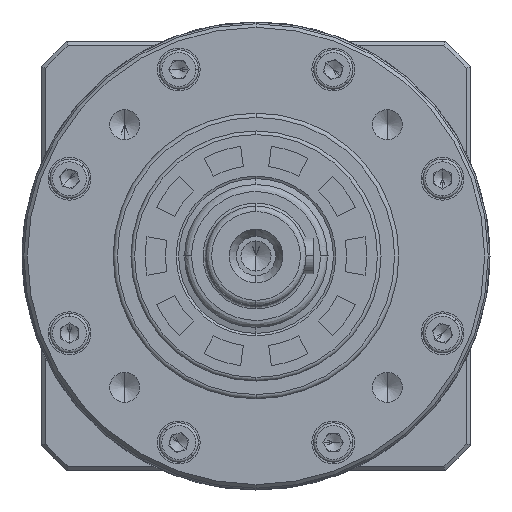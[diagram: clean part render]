
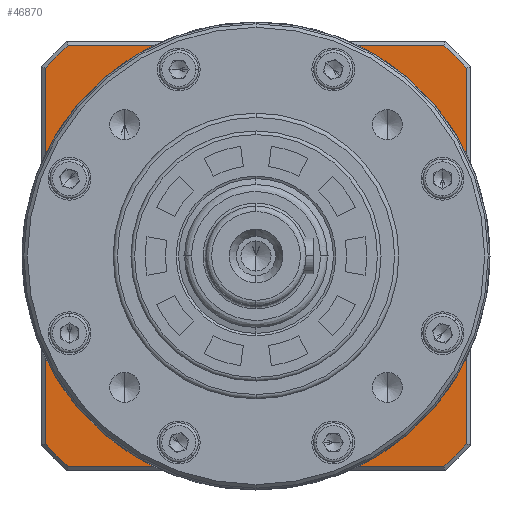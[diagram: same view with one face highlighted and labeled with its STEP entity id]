
A CAD part, left-side view. The second image highlights one B-rep face of the part: STEP entity #46870.
In plain terms, the highlighted planar face has unit normal (-1, 0, 0).
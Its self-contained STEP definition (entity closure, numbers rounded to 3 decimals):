
#1823 = VECTOR ( 'NONE', #60156, 1000. ) ;
#1941 = DIRECTION ( 'NONE',  ( 0., 1., 0. ) ) ;
#2256 = VERTEX_POINT ( 'NONE', #19501 ) ;
#2796 = EDGE_LOOP ( 'NONE', ( #4984, #60461 ) ) ;
#3154 = CARTESIAN_POINT ( 'NONE',  ( 5.8, 29.5, -26.268 ) ) ;
#4024 = DIRECTION ( 'NONE',  ( -1., 0., 0. ) ) ;
#4298 = CARTESIAN_POINT ( 'NONE',  ( 5.8, 0., 29. ) ) ;
#4424 = VECTOR ( 'NONE', #19091, 1000. ) ;
#4984 = ORIENTED_EDGE ( 'NONE', *, *, #55477, .F. ) ;
#5842 = DIRECTION ( 'NONE',  ( 0., 0., 1. ) ) ;
#5996 = FACE_OUTER_BOUND ( 'NONE', #63122, .T. ) ;
#6185 = EDGE_CURVE ( 'NONE', #30593, #49962, #10059, .T. ) ;
#6661 = CARTESIAN_POINT ( 'NONE',  ( 5.8, -29.5, -26.268 ) ) ;
#6684 = CARTESIAN_POINT ( 'NONE',  ( 5.8, -29.5, 0. ) ) ;
#6913 = DIRECTION ( 'NONE',  ( -1., 0., 0. ) ) ;
#7772 = ORIENTED_EDGE ( 'NONE', *, *, #30579, .T. ) ;
#9567 = DIRECTION ( 'NONE',  ( -1., 0., 0. ) ) ;
#9643 = VECTOR ( 'NONE', #5842, 1000. ) ;
#10059 = LINE ( 'NONE', #6684, #9643 ) ;
#10791 = EDGE_CURVE ( 'NONE', #52695, #2256, #28871, .T. ) ;
#10977 = CARTESIAN_POINT ( 'NONE',  ( 5.8, 0., 0. ) ) ;
#11575 = CARTESIAN_POINT ( 'NONE',  ( 5.8, 29.5, 26.268 ) ) ;
#14020 = CARTESIAN_POINT ( 'NONE',  ( 5.8, 26.268, -29.5 ) ) ;
#15636 = AXIS2_PLACEMENT_3D ( 'NONE', #66793, #34813, #1941 ) ;
#15722 = DIRECTION ( 'NONE',  ( -1., 0., 0. ) ) ;
#16274 = EDGE_CURVE ( 'NONE', #48906, #29278, #57964, .T. ) ;
#16547 = CIRCLE ( 'NONE', #47569, 29. ) ;
#18527 = CARTESIAN_POINT ( 'NONE',  ( 5.8, 0., -29. ) ) ;
#18529 = ORIENTED_EDGE ( 'NONE', *, *, #66073, .T. ) ;
#18618 = EDGE_CURVE ( 'NONE', #49962, #48906, #24113, .T. ) ;
#19091 = DIRECTION ( 'NONE',  ( 0., 0., -1. ) ) ;
#19190 = AXIS2_PLACEMENT_3D ( 'NONE', #48417, #15722, #53778 ) ;
#19501 = CARTESIAN_POINT ( 'NONE',  ( 5.8, -26.268, -29.5 ) ) ;
#19615 = CARTESIAN_POINT ( 'NONE',  ( 5.8, -39.5, 29.5 ) ) ;
#19901 = VERTEX_POINT ( 'NONE', #11575 ) ;
#20502 = EDGE_CURVE ( 'NONE', #64255, #52695, #51608, .T. ) ;
#20617 = FACE_BOUND ( 'NONE', #2796, .T. ) ;
#20767 = LINE ( 'NONE', #51660, #4424 ) ;
#20850 = CIRCLE ( 'NONE', #15636, 39.5 ) ;
#24113 = CIRCLE ( 'NONE', #25162, 39.5 ) ;
#25162 = AXIS2_PLACEMENT_3D ( 'NONE', #10977, #33940, #29923 ) ;
#25724 = PLANE ( 'NONE',  #67075 ) ;
#28767 = CARTESIAN_POINT ( 'NONE',  ( 5.8, 0., 0. ) ) ;
#28798 = ORIENTED_EDGE ( 'NONE', *, *, #6185, .T. ) ;
#28871 = LINE ( 'NONE', #44610, #43325 ) ;
#29278 = VERTEX_POINT ( 'NONE', #49131 ) ;
#29923 = DIRECTION ( 'NONE',  ( 0., 1., 0. ) ) ;
#30579 = EDGE_CURVE ( 'NONE', #2256, #30593, #44549, .T. ) ;
#30593 = VERTEX_POINT ( 'NONE', #6661 ) ;
#33940 = DIRECTION ( 'NONE',  ( -1., 0., 0. ) ) ;
#34287 = DIRECTION ( 'NONE',  ( 0., 1., 0. ) ) ;
#34813 = DIRECTION ( 'NONE',  ( -1., 0., 0. ) ) ;
#35653 = VERTEX_POINT ( 'NONE', #18527 ) ;
#36861 = CARTESIAN_POINT ( 'NONE',  ( 5.8, 0., 0. ) ) ;
#39155 = AXIS2_PLACEMENT_3D ( 'NONE', #28767, #66275, #34287 ) ;
#39763 = CARTESIAN_POINT ( 'NONE',  ( 5.8, 0., 0. ) ) ;
#42241 = CARTESIAN_POINT ( 'NONE',  ( 5.8, -26.268, 29.5 ) ) ;
#42308 = DIRECTION ( 'NONE',  ( 0., 0., 1. ) ) ;
#42364 = CARTESIAN_POINT ( 'NONE',  ( 5.8, -39.5, 0. ) ) ;
#42513 = ORIENTED_EDGE ( 'NONE', *, *, #18618, .T. ) ;
#43325 = VECTOR ( 'NONE', #44552, 1000. ) ;
#43976 = AXIS2_PLACEMENT_3D ( 'NONE', #39763, #6913, #45187 ) ;
#44549 = CIRCLE ( 'NONE', #39155, 39.5 ) ;
#44552 = DIRECTION ( 'NONE',  ( 0., -1., 0. ) ) ;
#44610 = CARTESIAN_POINT ( 'NONE',  ( 5.8, -39.5, -29.5 ) ) ;
#45187 = DIRECTION ( 'NONE',  ( 0., 0., -1. ) ) ;
#46870 = ADVANCED_FACE ( 'NONE', ( #20617, #5996 ), #25724, .T. ) ;
#47569 = AXIS2_PLACEMENT_3D ( 'NONE', #36861, #4024, #42308 ) ;
#47805 = DIRECTION ( 'NONE',  ( 0., 0., 1. ) ) ;
#48113 = ORIENTED_EDGE ( 'NONE', *, *, #20502, .T. ) ;
#48417 = CARTESIAN_POINT ( 'NONE',  ( 5.8, 0., 0. ) ) ;
#48906 = VERTEX_POINT ( 'NONE', #42241 ) ;
#49131 = CARTESIAN_POINT ( 'NONE',  ( 5.8, 26.268, 29.5 ) ) ;
#49962 = VERTEX_POINT ( 'NONE', #68209 ) ;
#51608 = CIRCLE ( 'NONE', #43976, 39.5 ) ;
#51660 = CARTESIAN_POINT ( 'NONE',  ( 5.8, 29.5, 0. ) ) ;
#52695 = VERTEX_POINT ( 'NONE', #14020 ) ;
#53417 = VERTEX_POINT ( 'NONE', #4298 ) ;
#53778 = DIRECTION ( 'NONE',  ( 0., 0., 1. ) ) ;
#55477 = EDGE_CURVE ( 'NONE', #53417, #35653, #57723, .T. ) ;
#56467 = EDGE_CURVE ( 'NONE', #35653, #53417, #16547, .T. ) ;
#56791 = EDGE_CURVE ( 'NONE', #19901, #64255, #20767, .T. ) ;
#57486 = ORIENTED_EDGE ( 'NONE', *, *, #56791, .T. ) ;
#57649 = ORIENTED_EDGE ( 'NONE', *, *, #10791, .T. ) ;
#57723 = CIRCLE ( 'NONE', #19190, 29. ) ;
#57964 = LINE ( 'NONE', #19615, #1823 ) ;
#58486 = ORIENTED_EDGE ( 'NONE', *, *, #16274, .T. ) ;
#60156 = DIRECTION ( 'NONE',  ( 0., 1., 0. ) ) ;
#60461 = ORIENTED_EDGE ( 'NONE', *, *, #56467, .F. ) ;
#63122 = EDGE_LOOP ( 'NONE', ( #42513, #58486, #18529, #57486, #48113, #57649, #7772, #28798 ) ) ;
#64255 = VERTEX_POINT ( 'NONE', #3154 ) ;
#66073 = EDGE_CURVE ( 'NONE', #29278, #19901, #20850, .T. ) ;
#66275 = DIRECTION ( 'NONE',  ( -1., 0., 0. ) ) ;
#66793 = CARTESIAN_POINT ( 'NONE',  ( 5.8, 0., 0. ) ) ;
#67075 = AXIS2_PLACEMENT_3D ( 'NONE', #42364, #9567, #47805 ) ;
#68209 = CARTESIAN_POINT ( 'NONE',  ( 5.8, -29.5, 26.268 ) ) ;
